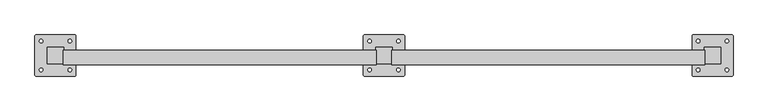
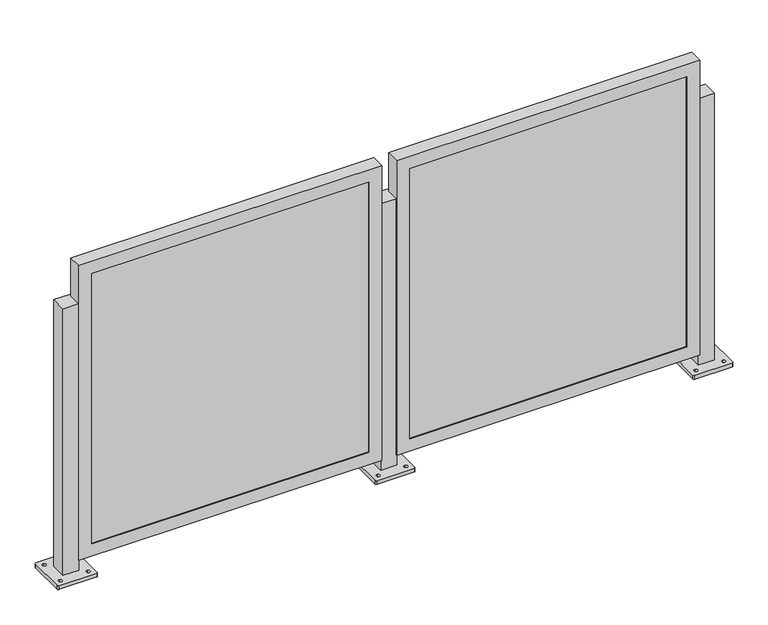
"""IFC4 building model written with IfcOpenShell, lengths in millimetres: railing geometry, Railing - Amico Architectural - Perforated Railing - Apex01."""

from ifc_helpers import new_model, si_unit, frame, origin, place, context, project, spatial, polyline, circle_curve, outline, extrude, faceted_brep, source, transform, mapped, element, save
from ifc_brep_helpers import plane_surface, cylinder_surface, revolved_surface, advanced_brep


def railing_13d9c8be(model_context):
    return source(origin(), model_context, "Body", "SolidModel", [
        advanced_brep(
        [(-26861.8818496, 7784.6872089, 914.4), (-26861.8818496, 7733.8872089, 914.4), (-26811.0818496, 7733.8872089, 914.4), (-26811.0818496, 7784.6872089, 914.4), (-26899.9818498, 7698.9622499, 0.0), (-26899.9818498, 7819.6121679, 0.0), (-26896.8068216, 7822.787196, 0.0), (-26776.1568776, 7822.787196, 0.0), (-26772.9818495, 7819.6121679, 0.0), (-26772.9818495, 7698.9622499, 0.0), (-26776.1568776, 7695.7872218, 0.0), (-26896.8068216, 7695.7872218, 0.0), (-26880.9318372, 7709.2809542, 0.0), (-26880.9318372, 7720.3934667, 0.0), (-26880.9318481, 7798.1809586, 0.0), (-26880.9318481, 7809.2934402, 0.0), (-26792.0318362, 7709.2809558, 0.0), (-26792.0318362, 7720.3934664, 0.0), (-26792.0318471, 7798.1809601, 0.0), (-26792.0318471, 7809.2934399, 0.0), (-26861.8818496, 7784.6872089, 12.7), (-26861.8818496, 7733.8872089, 12.7), (-26811.0818496, 7733.8872089, 12.7), (-26811.0818496, 7784.6872089, 12.7), (-26899.9818498, 7698.9622499, 12.7), (-26896.8068216, 7695.7872218, 12.7), (-26776.1568776, 7695.7872218, 12.7), (-26772.9818495, 7698.9622499, 12.7), (-26772.9818495, 7819.6121679, 12.7), (-26776.1568776, 7822.787196, 12.7), (-26896.8068216, 7822.787196, 12.7), (-26899.9818498, 7819.6121679, 12.7), (-26880.9318372, 7709.2809542, 12.7), (-26880.9318372, 7720.3934667, 12.7), (-26880.9318481, 7798.1809586, 12.7), (-26880.9318481, 7809.2934402, 12.7), (-26792.0318362, 7709.2809558, 12.7), (-26792.0318362, 7720.3934664, 12.7), (-26792.0318471, 7798.1809601, 12.7), (-26792.0318471, 7809.2934399, 12.7)],
        [
            (0, 1),
            (1, 2),
            (2, 3),
            (3, 0),
            (4, 5),
            (5, 6, circle_curve(frame((-26896.8068216, 7819.6121679, 0.0), z_axis=(0.0, 0.0, -1.0), x_axis=(0.0, 1.0, 0.0)), 3.1750282)),
            (6, 7),
            (7, 8, circle_curve(frame((-26776.1568776, 7819.6121679, 0.0), z_axis=(0.0, 0.0, -1.0), x_axis=(0.0, 1.0, 0.0)), 3.1750282)),
            (8, 9),
            (9, 10, circle_curve(frame((-26776.1568776, 7698.9622499, 0.0), z_axis=(0.0, 0.0, -1.0), x_axis=(0.0, 1.0, 0.0)), 3.1750282)),
            (10, 11),
            (11, 4, circle_curve(frame((-26896.8068216, 7698.9622499, 0.0), z_axis=(0.0, 0.0, -1.0), x_axis=(0.0, 1.0, 0.0)), 3.1750282)),
            (12, 13, circle_curve(frame((-26880.9318372, 7714.8372105, 0.0), z_axis=(0.0, 0.0, 1.0), x_axis=(0.0, 1.0, 0.0)), 5.5562562)),
            (13, 12, circle_curve(frame((-26880.9318372, 7714.8372105, 0.0), z_axis=(0.0, 0.0, 1.0), x_axis=(0.0, 1.0, 0.0)), 5.5562562)),
            (14, 15, circle_curve(frame((-26880.9318481, 7803.7371994, 0.0), z_axis=(0.0, 0.0, 1.0), x_axis=(0.0, 1.0, 0.0)), 5.5562408)),
            (15, 14, circle_curve(frame((-26880.9318481, 7803.7371994, 0.0), z_axis=(0.0, 0.0, 1.0), x_axis=(0.0, 1.0, 0.0)), 5.5562408)),
            (16, 17, circle_curve(frame((-26792.0318362, 7714.8372111, 0.0), z_axis=(0.0, 0.0, 1.0), x_axis=(0.0, 1.0, 0.0)), 5.5562553)),
            (17, 16, circle_curve(frame((-26792.0318362, 7714.8372111, 0.0), z_axis=(0.0, 0.0, 1.0), x_axis=(0.0, 1.0, 0.0)), 5.5562553)),
            (18, 19, circle_curve(frame((-26792.0318471, 7803.7372, 0.0), z_axis=(0.0, 0.0, 1.0), x_axis=(0.0, 1.0, 0.0)), 5.5562399)),
            (19, 18, circle_curve(frame((-26792.0318471, 7803.7372, 0.0), z_axis=(0.0, 0.0, 1.0), x_axis=(0.0, 1.0, 0.0)), 5.5562399)),
            (0, 20),
            (20, 21),
            (21, 1),
            (21, 22),
            (22, 2),
            (22, 23),
            (23, 3),
            (23, 20),
            (24, 25, circle_curve(frame((-26896.8068216, 7698.9622499, 12.7), z_axis=(0.0, 0.0, 1.0), x_axis=(0.0, 1.0, 0.0)), 3.1750282)),
            (25, 26),
            (26, 27, circle_curve(frame((-26776.1568776, 7698.9622499, 12.7), z_axis=(0.0, 0.0, 1.0), x_axis=(0.0, 1.0, 0.0)), 3.1750282)),
            (27, 28),
            (28, 29, circle_curve(frame((-26776.1568776, 7819.6121679, 12.7), z_axis=(0.0, 0.0, 1.0), x_axis=(0.0, 1.0, 0.0)), 3.1750282)),
            (29, 30),
            (30, 31, circle_curve(frame((-26896.8068216, 7819.6121679, 12.7), z_axis=(0.0, 0.0, 1.0), x_axis=(0.0, 1.0, 0.0)), 3.1750282)),
            (31, 24),
            (32, 33, circle_curve(frame((-26880.9318372, 7714.8372105, 12.7), z_axis=(0.0, 0.0, -1.0), x_axis=(0.0, 1.0, 0.0)), 5.5562562)),
            (33, 32, circle_curve(frame((-26880.9318372, 7714.8372105, 12.7), z_axis=(0.0, 0.0, -1.0), x_axis=(0.0, 1.0, 0.0)), 5.5562562)),
            (34, 35, circle_curve(frame((-26880.9318481, 7803.7371994, 12.7), z_axis=(0.0, 0.0, -1.0), x_axis=(0.0, 1.0, 0.0)), 5.5562408)),
            (35, 34, circle_curve(frame((-26880.9318481, 7803.7371994, 12.7), z_axis=(0.0, 0.0, -1.0), x_axis=(0.0, 1.0, 0.0)), 5.5562408)),
            (36, 37, circle_curve(frame((-26792.0318362, 7714.8372111, 12.7), z_axis=(0.0, 0.0, -1.0), x_axis=(0.0, 1.0, 0.0)), 5.5562553)),
            (37, 36, circle_curve(frame((-26792.0318362, 7714.8372111, 12.7), z_axis=(0.0, 0.0, -1.0), x_axis=(0.0, 1.0, 0.0)), 5.5562553)),
            (38, 39, circle_curve(frame((-26792.0318471, 7803.7372, 12.7), z_axis=(0.0, 0.0, -1.0), x_axis=(0.0, 1.0, 0.0)), 5.5562399)),
            (39, 38, circle_curve(frame((-26792.0318471, 7803.7372, 12.7), z_axis=(0.0, 0.0, -1.0), x_axis=(0.0, 1.0, 0.0)), 5.5562399)),
            (24, 4),
            (11, 25),
            (10, 26),
            (9, 27),
            (8, 28),
            (7, 29),
            (6, 30),
            (5, 31),
            (32, 12),
            (13, 33),
            (34, 14),
            (15, 35),
            (36, 16),
            (17, 37),
            (38, 18),
            (19, 39),
        ],
        [
            plane_surface(frame((-26861.8818496, 7733.8872089, 914.4), z_axis=(0.0, 0.0, 1.0), x_axis=(0.0, -1.0, 0.0))),
            plane_surface(frame((-26861.8818496, 7733.8872089, 0.0), z_axis=(0.0, 0.0, -1.0), x_axis=(0.0, 1.0, 0.0))),
            plane_surface(frame((-26861.8818496, 7784.6872089, 914.4), z_axis=(-1.0, 0.0, 0.0), x_axis=(0.0, 0.0, -1.0))),
            plane_surface(frame((-26861.8818496, 7733.8872089, 914.4), z_axis=(0.0, -1.0, 0.0), x_axis=(0.0, 0.0, -1.0))),
            plane_surface(frame((-26811.0818496, 7733.8872089, 914.4), z_axis=(1.0, 0.0, 0.0), x_axis=(0.0, 0.0, -1.0))),
            plane_surface(frame((-26811.0818496, 7784.6872089, 914.4), z_axis=(0.0, 1.0, 0.0), x_axis=(0.0, 0.0, -1.0))),
            plane_surface(frame((-26896.8068216, 7702.1372781, 12.7), z_axis=(0.0, 0.0, 1.0), x_axis=(-1.0, 0.0, 0.0))),
            cylinder_surface(frame((-26896.8068216, 7698.9622499, 0.0), z_axis=(0.0, 0.0, 1.0), x_axis=(0.0, 1.0, 0.0)), 3.1750282),
            plane_surface(frame((-26896.8068216, 7695.7872218, 12.7), z_axis=(1.1945386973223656e-12, -1.0, 0.0), x_axis=(0.0, 0.0, -1.0))),
            cylinder_surface(frame((-26776.1568776, 7698.9622499, 0.0), z_axis=(0.0, 0.0, 1.0), x_axis=(0.0, 1.0, 0.0)), 3.1750282),
            plane_surface(frame((-26772.9818495, 7698.9622499, 12.7), z_axis=(1.0, 0.0, 0.0), x_axis=(0.0, 0.0, -1.0))),
            cylinder_surface(frame((-26776.1568776, 7819.6121679, 0.0), z_axis=(0.0, 0.0, 1.0), x_axis=(0.0, 1.0, 0.0)), 3.1750282),
            plane_surface(frame((-26776.1568776, 7822.787196, 12.7), z_axis=(-1.1946088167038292e-12, 1.0, 0.0), x_axis=(0.0, 0.0, -1.0))),
            cylinder_surface(frame((-26896.8068216, 7819.6121679, 0.0), z_axis=(0.0, 0.0, 1.0), x_axis=(0.0, 1.0, 0.0)), 3.1750282),
            plane_surface(frame((-26899.9818498, 7819.6121679, 12.7), z_axis=(-1.0, 0.0, 0.0), x_axis=(0.0, 0.0, -1.0))),
            revolved_surface(polyline([(-26880.9318372, 7720.393466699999, 0.0), (-26880.9318372, 7720.393466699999, 12.7)]), (-26880.9318372, 7714.8372105, 0.0), (0.0, 0.0, -1.0)),
            revolved_surface(polyline([(-26880.9318481, 7809.293440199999, 0.0), (-26880.9318481, 7809.293440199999, 12.7)]), (-26880.9318481, 7803.7371994, 0.0), (0.0, 0.0, -1.0)),
            revolved_surface(polyline([(-26792.0318362, 7720.3934664, 0.0), (-26792.0318362, 7720.3934664, 12.7)]), (-26792.0318362, 7714.8372111, 0.0), (0.0, 0.0, -1.0)),
            revolved_surface(polyline([(-26792.0318471, 7809.2934399, 0.0), (-26792.0318471, 7809.2934399, 12.7)]), (-26792.0318471, 7803.7372, 0.0), (0.0, 0.0, -1.0)),
        ],
        [
            (0, [[1, 2, 3, 4]]),
            (1, [[5, 6, 7, 8, 9, 10, 11, 12], [13, 14], [15, 16], [17, 18], [19, 20]]),
            (2, [[-1, 21, 22, 23]]),
            (3, [[-2, -23, 24, 25]]),
            (4, [[-3, -25, 26, 27]]),
            (5, [[-4, -27, 28, -21]]),
            (6, [[29, 30, 31, 32, 33, 34, 35, 36], [-22, -28, -26, -24], [37, 38], [39, 40], [41, 42], [43, 44]]),
            (7, [[-29, 45, -12, 46]]),
            (8, [[-30, -46, -11, 47]]),
            (9, [[-31, -47, -10, 48]]),
            (10, [[-32, -48, -9, 49]]),
            (11, [[-33, -49, -8, 50]]),
            (12, [[-34, -50, -7, 51]]),
            (13, [[-35, -51, -6, 52]]),
            (14, [[-36, -52, -5, -45]]),
            (15, [[-37, 53, -14, 54]]),
            (15, [[-38, -54, -13, -53]]),
            (16, [[-39, 55, -16, 56]]),
            (16, [[-40, -56, -15, -55]]),
            (17, [[-41, 57, -18, 58]]),
            (17, [[-42, -58, -17, -57]]),
            (18, [[-43, 59, -20, 60]]),
            (18, [[-44, -60, -19, -59]]),
        ],
    ),
        faceted_brep([(-27828.286303, 7731.1440089, 47.625), (-26859.911303, 7731.1440089, 47.625), (-26859.911303, 7731.1440089, 1044.575), (-27828.286303, 7731.1440089, 1044.575), (-27787.011303, 7731.1440089, 1003.3), (-26901.186303, 7731.1440089, 1003.3), (-26901.186303, 7731.1440089, 88.9), (-27787.011303, 7731.1440089, 88.9), (-27787.011303, 7733.8872089, 1003.3), (-27787.011303, 7733.8872089, 88.9), (-27828.286303, 7775.0173054, 1044.575), (-27828.286303, 7775.0173054, 47.625), (-27825.111303, 7775.0173054, 1041.4), (-27825.111303, 7733.8872089, 1041.4), (-27825.111303, 7733.8872089, 50.8), (-27825.111303, 7775.0173054, 50.8), (-26901.186303, 7733.8872089, 88.9), (-26859.911303, 7775.0173054, 47.625), (-26863.086303, 7733.8872089, 50.8), (-26863.086303, 7775.0173054, 50.8), (-26901.186303, 7733.8872089, 1003.3), (-26859.911303, 7775.0173054, 1044.575), (-26863.086303, 7733.8872089, 1041.4), (-26863.086303, 7775.0173054, 1041.4)], [[[0, 1, 2, 3], [4, 5, 6, 7]], [[8, 4, 7, 9]], [[3, 10, 11, 0]], [[12, 13, 14, 15]], [[9, 7, 6, 16]], [[0, 11, 17, 1]], [[15, 14, 18, 19]], [[16, 6, 5, 20]], [[1, 17, 21, 2]], [[19, 18, 22, 23]], [[20, 5, 4, 8]], [[10, 21, 17, 11], [15, 19, 23, 12]], [[2, 21, 10, 3]], [[13, 22, 18, 14], [9, 16, 20, 8]], [[23, 22, 13, 12]]]),
        extrude(outline(polyline([(-27825.111303, 7743.4122089), (-26863.086303, 7743.4122089), (-26863.086303, 7733.8872089), (-27825.111303, 7733.8872089), (-27825.111303, 7743.4122089)])), frame((0.0, 0.0, 50.8), z_axis=(0.0, 0.0, 1.0), x_axis=(1.0, 0.0, 0.0)), (0.0, 0.0, 1.0), 990.6),
        advanced_brep(
        [(-27877.8818496, 7784.6872089, 914.4), (-27877.8818496, 7733.8872089, 914.4), (-27827.0818496, 7733.8872089, 914.4), (-27827.0818496, 7784.6872089, 914.4), (-27915.9818498, 7698.9622499, 0.0), (-27915.9818498, 7819.6121679, 0.0), (-27912.8068216, 7822.787196, 0.0), (-27792.1568776, 7822.787196, 0.0), (-27788.9818495, 7819.6121679, 0.0), (-27788.9818495, 7698.9622499, 0.0), (-27792.1568776, 7695.7872218, 0.0), (-27912.8068216, 7695.7872218, 0.0), (-27896.9318372, 7709.2809542, 0.0), (-27896.9318372, 7720.3934667, 0.0), (-27896.9318481, 7798.1809586, 0.0), (-27896.9318481, 7809.2934402, 0.0), (-27808.0318362, 7709.2809558, 0.0), (-27808.0318362, 7720.3934664, 0.0), (-27808.0318471, 7798.1809601, 0.0), (-27808.0318471, 7809.2934399, 0.0), (-27877.8818496, 7784.6872089, 12.7), (-27877.8818496, 7733.8872089, 12.7), (-27827.0818496, 7733.8872089, 12.7), (-27827.0818496, 7784.6872089, 12.7), (-27915.9818498, 7698.9622499, 12.7), (-27912.8068216, 7695.7872218, 12.7), (-27792.1568776, 7695.7872218, 12.7), (-27788.9818495, 7698.9622499, 12.7), (-27788.9818495, 7819.6121679, 12.7), (-27792.1568776, 7822.787196, 12.7), (-27912.8068216, 7822.787196, 12.7), (-27915.9818498, 7819.6121679, 12.7), (-27896.9318372, 7709.2809542, 12.7), (-27896.9318372, 7720.3934667, 12.7), (-27896.9318481, 7798.1809586, 12.7), (-27896.9318481, 7809.2934402, 12.7), (-27808.0318362, 7709.2809558, 12.7), (-27808.0318362, 7720.3934664, 12.7), (-27808.0318471, 7798.1809601, 12.7), (-27808.0318471, 7809.2934399, 12.7)],
        [
            (0, 1),
            (1, 2),
            (2, 3),
            (3, 0),
            (4, 5),
            (5, 6, circle_curve(frame((-27912.8068216, 7819.6121679, 0.0), z_axis=(0.0, 0.0, -1.0), x_axis=(0.0, 1.0, 0.0)), 3.1750282)),
            (6, 7),
            (7, 8, circle_curve(frame((-27792.1568776, 7819.6121679, 0.0), z_axis=(0.0, 0.0, -1.0), x_axis=(0.0, 1.0, 0.0)), 3.1750282)),
            (8, 9),
            (9, 10, circle_curve(frame((-27792.1568776, 7698.9622499, 0.0), z_axis=(0.0, 0.0, -1.0), x_axis=(0.0, 1.0, 0.0)), 3.1750282)),
            (10, 11),
            (11, 4, circle_curve(frame((-27912.8068216, 7698.9622499, 0.0), z_axis=(0.0, 0.0, -1.0), x_axis=(0.0, 1.0, 0.0)), 3.1750282)),
            (12, 13, circle_curve(frame((-27896.9318372, 7714.8372105, 0.0), z_axis=(0.0, 0.0, 1.0), x_axis=(0.0, 1.0, 0.0)), 5.5562562)),
            (13, 12, circle_curve(frame((-27896.9318372, 7714.8372105, 0.0), z_axis=(0.0, 0.0, 1.0), x_axis=(0.0, 1.0, 0.0)), 5.5562562)),
            (14, 15, circle_curve(frame((-27896.9318481, 7803.7371994, 0.0), z_axis=(0.0, 0.0, 1.0), x_axis=(0.0, 1.0, 0.0)), 5.5562408)),
            (15, 14, circle_curve(frame((-27896.9318481, 7803.7371994, 0.0), z_axis=(0.0, 0.0, 1.0), x_axis=(0.0, 1.0, 0.0)), 5.5562408)),
            (16, 17, circle_curve(frame((-27808.0318362, 7714.8372111, 0.0), z_axis=(0.0, 0.0, 1.0), x_axis=(0.0, 1.0, 0.0)), 5.5562553)),
            (17, 16, circle_curve(frame((-27808.0318362, 7714.8372111, 0.0), z_axis=(0.0, 0.0, 1.0), x_axis=(0.0, 1.0, 0.0)), 5.5562553)),
            (18, 19, circle_curve(frame((-27808.0318471, 7803.7372, 0.0), z_axis=(0.0, 0.0, 1.0), x_axis=(0.0, 1.0, 0.0)), 5.5562399)),
            (19, 18, circle_curve(frame((-27808.0318471, 7803.7372, 0.0), z_axis=(0.0, 0.0, 1.0), x_axis=(0.0, 1.0, 0.0)), 5.5562399)),
            (0, 20),
            (20, 21),
            (21, 1),
            (21, 22),
            (22, 2),
            (22, 23),
            (23, 3),
            (23, 20),
            (24, 25, circle_curve(frame((-27912.8068216, 7698.9622499, 12.7), z_axis=(0.0, 0.0, 1.0), x_axis=(0.0, 1.0, 0.0)), 3.1750282)),
            (25, 26),
            (26, 27, circle_curve(frame((-27792.1568776, 7698.9622499, 12.7), z_axis=(0.0, 0.0, 1.0), x_axis=(0.0, 1.0, 0.0)), 3.1750282)),
            (27, 28),
            (28, 29, circle_curve(frame((-27792.1568776, 7819.6121679, 12.7), z_axis=(0.0, 0.0, 1.0), x_axis=(0.0, 1.0, 0.0)), 3.1750282)),
            (29, 30),
            (30, 31, circle_curve(frame((-27912.8068216, 7819.6121679, 12.7), z_axis=(0.0, 0.0, 1.0), x_axis=(0.0, 1.0, 0.0)), 3.1750282)),
            (31, 24),
            (32, 33, circle_curve(frame((-27896.9318372, 7714.8372105, 12.7), z_axis=(0.0, 0.0, -1.0), x_axis=(0.0, 1.0, 0.0)), 5.5562562)),
            (33, 32, circle_curve(frame((-27896.9318372, 7714.8372105, 12.7), z_axis=(0.0, 0.0, -1.0), x_axis=(0.0, 1.0, 0.0)), 5.5562562)),
            (34, 35, circle_curve(frame((-27896.9318481, 7803.7371994, 12.7), z_axis=(0.0, 0.0, -1.0), x_axis=(0.0, 1.0, 0.0)), 5.5562408)),
            (35, 34, circle_curve(frame((-27896.9318481, 7803.7371994, 12.7), z_axis=(0.0, 0.0, -1.0), x_axis=(0.0, 1.0, 0.0)), 5.5562408)),
            (36, 37, circle_curve(frame((-27808.0318362, 7714.8372111, 12.7), z_axis=(0.0, 0.0, -1.0), x_axis=(0.0, 1.0, 0.0)), 5.5562553)),
            (37, 36, circle_curve(frame((-27808.0318362, 7714.8372111, 12.7), z_axis=(0.0, 0.0, -1.0), x_axis=(0.0, 1.0, 0.0)), 5.5562553)),
            (38, 39, circle_curve(frame((-27808.0318471, 7803.7372, 12.7), z_axis=(0.0, 0.0, -1.0), x_axis=(0.0, 1.0, 0.0)), 5.5562399)),
            (39, 38, circle_curve(frame((-27808.0318471, 7803.7372, 12.7), z_axis=(0.0, 0.0, -1.0), x_axis=(0.0, 1.0, 0.0)), 5.5562399)),
            (24, 4),
            (11, 25),
            (10, 26),
            (9, 27),
            (8, 28),
            (7, 29),
            (6, 30),
            (5, 31),
            (32, 12),
            (13, 33),
            (34, 14),
            (15, 35),
            (36, 16),
            (17, 37),
            (38, 18),
            (19, 39),
        ],
        [
            plane_surface(frame((-27877.8818496, 7733.8872089, 914.4), z_axis=(0.0, 0.0, 1.0), x_axis=(0.0, -1.0, 0.0))),
            plane_surface(frame((-27877.8818496, 7733.8872089, 0.0), z_axis=(0.0, 0.0, -1.0), x_axis=(0.0, 1.0, 0.0))),
            plane_surface(frame((-27877.8818496, 7784.6872089, 914.4), z_axis=(-1.0, 0.0, 0.0), x_axis=(0.0, 0.0, -1.0))),
            plane_surface(frame((-27877.8818496, 7733.8872089, 914.4), z_axis=(0.0, -1.0, 0.0), x_axis=(0.0, 0.0, -1.0))),
            plane_surface(frame((-27827.0818496, 7733.8872089, 914.4), z_axis=(1.0, 0.0, 0.0), x_axis=(0.0, 0.0, -1.0))),
            plane_surface(frame((-27827.0818496, 7784.6872089, 914.4), z_axis=(0.0, 1.0, 0.0), x_axis=(0.0, 0.0, -1.0))),
            plane_surface(frame((-27912.8068216, 7702.1372781, 12.7), z_axis=(0.0, 0.0, 1.0), x_axis=(-1.0, 0.0, 0.0))),
            cylinder_surface(frame((-27912.8068216, 7698.9622499, 0.0), z_axis=(0.0, 0.0, 1.0), x_axis=(0.0, 1.0, 0.0)), 3.1750282),
            plane_surface(frame((-27912.8068216, 7695.7872218, 12.7), z_axis=(1.1945386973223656e-12, -1.0, 0.0), x_axis=(0.0, 0.0, -1.0))),
            cylinder_surface(frame((-27792.1568776, 7698.9622499, 0.0), z_axis=(0.0, 0.0, 1.0), x_axis=(0.0, 1.0, 0.0)), 3.1750282),
            plane_surface(frame((-27788.9818495, 7698.9622499, 12.7), z_axis=(1.0, 0.0, 0.0), x_axis=(0.0, 0.0, -1.0))),
            cylinder_surface(frame((-27792.1568776, 7819.6121679, 0.0), z_axis=(0.0, 0.0, 1.0), x_axis=(0.0, 1.0, 0.0)), 3.1750282),
            plane_surface(frame((-27792.1568776, 7822.787196, 12.7), z_axis=(-1.1946088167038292e-12, 1.0, 0.0), x_axis=(0.0, 0.0, -1.0))),
            cylinder_surface(frame((-27912.8068216, 7819.6121679, 0.0), z_axis=(0.0, 0.0, 1.0), x_axis=(0.0, 1.0, 0.0)), 3.1750282),
            plane_surface(frame((-27915.9818498, 7819.6121679, 12.7), z_axis=(-1.0, 0.0, 0.0), x_axis=(0.0, 0.0, -1.0))),
            revolved_surface(polyline([(-27896.9318372, 7720.393466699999, 0.0), (-27896.9318372, 7720.393466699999, 12.7)]), (-27896.9318372, 7714.8372105, 0.0), (0.0, 0.0, -1.0)),
            revolved_surface(polyline([(-27896.9318481, 7809.293440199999, 0.0), (-27896.9318481, 7809.293440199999, 12.7)]), (-27896.9318481, 7803.7371994, 0.0), (0.0, 0.0, -1.0)),
            revolved_surface(polyline([(-27808.0318362, 7720.3934664, 0.0), (-27808.0318362, 7720.3934664, 12.7)]), (-27808.0318362, 7714.8372111, 0.0), (0.0, 0.0, -1.0)),
            revolved_surface(polyline([(-27808.0318471, 7809.2934399, 0.0), (-27808.0318471, 7809.2934399, 12.7)]), (-27808.0318471, 7803.7372, 0.0), (0.0, 0.0, -1.0)),
        ],
        [
            (0, [[1, 2, 3, 4]]),
            (1, [[5, 6, 7, 8, 9, 10, 11, 12], [13, 14], [15, 16], [17, 18], [19, 20]]),
            (2, [[-1, 21, 22, 23]]),
            (3, [[-2, -23, 24, 25]]),
            (4, [[-3, -25, 26, 27]]),
            (5, [[-4, -27, 28, -21]]),
            (6, [[29, 30, 31, 32, 33, 34, 35, 36], [-22, -28, -26, -24], [37, 38], [39, 40], [41, 42], [43, 44]]),
            (7, [[-29, 45, -12, 46]]),
            (8, [[-30, -46, -11, 47]]),
            (9, [[-31, -47, -10, 48]]),
            (10, [[-32, -48, -9, 49]]),
            (11, [[-33, -49, -8, 50]]),
            (12, [[-34, -50, -7, 51]]),
            (13, [[-35, -51, -6, 52]]),
            (14, [[-36, -52, -5, -45]]),
            (15, [[-37, 53, -14, 54]]),
            (15, [[-38, -54, -13, -53]]),
            (16, [[-39, 55, -16, 56]]),
            (16, [[-40, -56, -15, -55]]),
            (17, [[-41, 57, -18, 58]]),
            (17, [[-42, -58, -17, -57]]),
            (18, [[-43, 59, -20, 60]]),
            (18, [[-44, -60, -19, -59]]),
        ],
    ),
        faceted_brep([(-28844.286303, 7731.1440089, 47.625), (-27875.911303, 7731.1440089, 47.625), (-27875.911303, 7731.1440089, 1044.575), (-28844.286303, 7731.1440089, 1044.575), (-28803.011303, 7731.1440089, 1003.3), (-27917.186303, 7731.1440089, 1003.3), (-27917.186303, 7731.1440089, 88.9), (-28803.011303, 7731.1440089, 88.9), (-28803.011303, 7733.8872089, 1003.3), (-28803.011303, 7733.8872089, 88.9), (-28844.286303, 7775.0173054, 1044.575), (-28844.286303, 7775.0173054, 47.625), (-28841.111303, 7775.0173054, 1041.4), (-28841.111303, 7733.8872089, 1041.4), (-28841.111303, 7733.8872089, 50.8), (-28841.111303, 7775.0173054, 50.8), (-27917.186303, 7733.8872089, 88.9), (-27875.911303, 7775.0173054, 47.625), (-27879.086303, 7733.8872089, 50.8), (-27879.086303, 7775.0173054, 50.8), (-27917.186303, 7733.8872089, 1003.3), (-27875.911303, 7775.0173054, 1044.575), (-27879.086303, 7733.8872089, 1041.4), (-27879.086303, 7775.0173054, 1041.4)], [[[0, 1, 2, 3], [4, 5, 6, 7]], [[8, 4, 7, 9]], [[3, 10, 11, 0]], [[12, 13, 14, 15]], [[9, 7, 6, 16]], [[0, 11, 17, 1]], [[15, 14, 18, 19]], [[16, 6, 5, 20]], [[1, 17, 21, 2]], [[19, 18, 22, 23]], [[20, 5, 4, 8]], [[10, 21, 17, 11], [15, 19, 23, 12]], [[2, 21, 10, 3]], [[13, 22, 18, 14], [9, 16, 20, 8]], [[23, 22, 13, 12]]]),
        extrude(outline(polyline([(-28841.111303, 7743.4122089), (-27879.086303, 7743.4122089), (-27879.086303, 7733.8872089), (-28841.111303, 7733.8872089), (-28841.111303, 7743.4122089)])), frame((0.0, 0.0, 50.8), z_axis=(0.0, 0.0, 1.0), x_axis=(1.0, 0.0, 0.0)), (0.0, 0.0, 1.0), 990.6),
        advanced_brep(
        [(-28893.8818496, 7784.6872089, 914.4), (-28893.8818496, 7733.8872089, 914.4), (-28843.0818496, 7733.8872089, 914.4), (-28843.0818496, 7784.6872089, 914.4), (-28931.9818498, 7698.9622499, 0.0), (-28931.9818498, 7819.6121679, 0.0), (-28928.8068216, 7822.787196, 0.0), (-28808.1568776, 7822.787196, 0.0), (-28804.9818495, 7819.6121679, 0.0), (-28804.9818495, 7698.9622499, 0.0), (-28808.1568776, 7695.7872218, 0.0), (-28928.8068216, 7695.7872218, 0.0), (-28912.9318372, 7709.2809542, 0.0), (-28912.9318372, 7720.3934667, 0.0), (-28912.9318481, 7798.1809586, 0.0), (-28912.9318481, 7809.2934402, 0.0), (-28824.0318362, 7709.2809558, 0.0), (-28824.0318362, 7720.3934664, 0.0), (-28824.0318471, 7798.1809601, 0.0), (-28824.0318471, 7809.2934399, 0.0), (-28893.8818496, 7784.6872089, 12.7), (-28893.8818496, 7733.8872089, 12.7), (-28843.0818496, 7733.8872089, 12.7), (-28843.0818496, 7784.6872089, 12.7), (-28931.9818498, 7698.9622499, 12.7), (-28928.8068216, 7695.7872218, 12.7), (-28808.1568776, 7695.7872218, 12.7), (-28804.9818495, 7698.9622499, 12.7), (-28804.9818495, 7819.6121679, 12.7), (-28808.1568776, 7822.787196, 12.7), (-28928.8068216, 7822.787196, 12.7), (-28931.9818498, 7819.6121679, 12.7), (-28912.9318372, 7709.2809542, 12.7), (-28912.9318372, 7720.3934667, 12.7), (-28912.9318481, 7798.1809586, 12.7), (-28912.9318481, 7809.2934402, 12.7), (-28824.0318362, 7709.2809558, 12.7), (-28824.0318362, 7720.3934664, 12.7), (-28824.0318471, 7798.1809601, 12.7), (-28824.0318471, 7809.2934399, 12.7)],
        [
            (0, 1),
            (1, 2),
            (2, 3),
            (3, 0),
            (4, 5),
            (5, 6, circle_curve(frame((-28928.8068216, 7819.6121679, 0.0), z_axis=(0.0, 0.0, -1.0), x_axis=(0.0, 1.0, 0.0)), 3.1750282)),
            (6, 7),
            (7, 8, circle_curve(frame((-28808.1568776, 7819.6121679, 0.0), z_axis=(0.0, 0.0, -1.0), x_axis=(0.0, 1.0, 0.0)), 3.1750282)),
            (8, 9),
            (9, 10, circle_curve(frame((-28808.1568776, 7698.9622499, 0.0), z_axis=(0.0, 0.0, -1.0), x_axis=(0.0, 1.0, 0.0)), 3.1750282)),
            (10, 11),
            (11, 4, circle_curve(frame((-28928.8068216, 7698.9622499, 0.0), z_axis=(0.0, 0.0, -1.0), x_axis=(0.0, 1.0, 0.0)), 3.1750282)),
            (12, 13, circle_curve(frame((-28912.9318372, 7714.8372105, 0.0), z_axis=(0.0, 0.0, 1.0), x_axis=(0.0, 1.0, 0.0)), 5.5562562)),
            (13, 12, circle_curve(frame((-28912.9318372, 7714.8372105, 0.0), z_axis=(0.0, 0.0, 1.0), x_axis=(0.0, 1.0, 0.0)), 5.5562562)),
            (14, 15, circle_curve(frame((-28912.9318481, 7803.7371994, 0.0), z_axis=(0.0, 0.0, 1.0), x_axis=(0.0, 1.0, 0.0)), 5.5562408)),
            (15, 14, circle_curve(frame((-28912.9318481, 7803.7371994, 0.0), z_axis=(0.0, 0.0, 1.0), x_axis=(0.0, 1.0, 0.0)), 5.5562408)),
            (16, 17, circle_curve(frame((-28824.0318362, 7714.8372111, 0.0), z_axis=(0.0, 0.0, 1.0), x_axis=(0.0, 1.0, 0.0)), 5.5562553)),
            (17, 16, circle_curve(frame((-28824.0318362, 7714.8372111, 0.0), z_axis=(0.0, 0.0, 1.0), x_axis=(0.0, 1.0, 0.0)), 5.5562553)),
            (18, 19, circle_curve(frame((-28824.0318471, 7803.7372, 0.0), z_axis=(0.0, 0.0, 1.0), x_axis=(0.0, 1.0, 0.0)), 5.5562399)),
            (19, 18, circle_curve(frame((-28824.0318471, 7803.7372, 0.0), z_axis=(0.0, 0.0, 1.0), x_axis=(0.0, 1.0, 0.0)), 5.5562399)),
            (0, 20),
            (20, 21),
            (21, 1),
            (21, 22),
            (22, 2),
            (22, 23),
            (23, 3),
            (23, 20),
            (24, 25, circle_curve(frame((-28928.8068216, 7698.9622499, 12.7), z_axis=(0.0, 0.0, 1.0), x_axis=(0.0, 1.0, 0.0)), 3.1750282)),
            (25, 26),
            (26, 27, circle_curve(frame((-28808.1568776, 7698.9622499, 12.7), z_axis=(0.0, 0.0, 1.0), x_axis=(0.0, 1.0, 0.0)), 3.1750282)),
            (27, 28),
            (28, 29, circle_curve(frame((-28808.1568776, 7819.6121679, 12.7), z_axis=(0.0, 0.0, 1.0), x_axis=(0.0, 1.0, 0.0)), 3.1750282)),
            (29, 30),
            (30, 31, circle_curve(frame((-28928.8068216, 7819.6121679, 12.7), z_axis=(0.0, 0.0, 1.0), x_axis=(0.0, 1.0, 0.0)), 3.1750282)),
            (31, 24),
            (32, 33, circle_curve(frame((-28912.9318372, 7714.8372105, 12.7), z_axis=(0.0, 0.0, -1.0), x_axis=(0.0, 1.0, 0.0)), 5.5562562)),
            (33, 32, circle_curve(frame((-28912.9318372, 7714.8372105, 12.7), z_axis=(0.0, 0.0, -1.0), x_axis=(0.0, 1.0, 0.0)), 5.5562562)),
            (34, 35, circle_curve(frame((-28912.9318481, 7803.7371994, 12.7), z_axis=(0.0, 0.0, -1.0), x_axis=(0.0, 1.0, 0.0)), 5.5562408)),
            (35, 34, circle_curve(frame((-28912.9318481, 7803.7371994, 12.7), z_axis=(0.0, 0.0, -1.0), x_axis=(0.0, 1.0, 0.0)), 5.5562408)),
            (36, 37, circle_curve(frame((-28824.0318362, 7714.8372111, 12.7), z_axis=(0.0, 0.0, -1.0), x_axis=(0.0, 1.0, 0.0)), 5.5562553)),
            (37, 36, circle_curve(frame((-28824.0318362, 7714.8372111, 12.7), z_axis=(0.0, 0.0, -1.0), x_axis=(0.0, 1.0, 0.0)), 5.5562553)),
            (38, 39, circle_curve(frame((-28824.0318471, 7803.7372, 12.7), z_axis=(0.0, 0.0, -1.0), x_axis=(0.0, 1.0, 0.0)), 5.5562399)),
            (39, 38, circle_curve(frame((-28824.0318471, 7803.7372, 12.7), z_axis=(0.0, 0.0, -1.0), x_axis=(0.0, 1.0, 0.0)), 5.5562399)),
            (24, 4),
            (11, 25),
            (10, 26),
            (9, 27),
            (8, 28),
            (7, 29),
            (6, 30),
            (5, 31),
            (32, 12),
            (13, 33),
            (34, 14),
            (15, 35),
            (36, 16),
            (17, 37),
            (38, 18),
            (19, 39),
        ],
        [
            plane_surface(frame((-28893.8818496, 7733.8872089, 914.4), z_axis=(0.0, 0.0, 1.0), x_axis=(0.0, -1.0, 0.0))),
            plane_surface(frame((-28893.8818496, 7733.8872089, 0.0), z_axis=(0.0, 0.0, -1.0), x_axis=(0.0, 1.0, 0.0))),
            plane_surface(frame((-28893.8818496, 7784.6872089, 914.4), z_axis=(-1.0, 0.0, 0.0), x_axis=(0.0, 0.0, -1.0))),
            plane_surface(frame((-28893.8818496, 7733.8872089, 914.4), z_axis=(0.0, -1.0, 0.0), x_axis=(0.0, 0.0, -1.0))),
            plane_surface(frame((-28843.0818496, 7733.8872089, 914.4), z_axis=(1.0, 0.0, 0.0), x_axis=(0.0, 0.0, -1.0))),
            plane_surface(frame((-28843.0818496, 7784.6872089, 914.4), z_axis=(0.0, 1.0, 0.0), x_axis=(0.0, 0.0, -1.0))),
            plane_surface(frame((-28928.8068216, 7702.1372781, 12.7), z_axis=(0.0, 0.0, 1.0), x_axis=(-1.0, 0.0, 0.0))),
            cylinder_surface(frame((-28928.8068216, 7698.9622499, 0.0), z_axis=(0.0, 0.0, 1.0), x_axis=(0.0, 1.0, 0.0)), 3.1750282),
            plane_surface(frame((-28928.8068216, 7695.7872218, 12.7), z_axis=(1.1945386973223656e-12, -1.0, 0.0), x_axis=(0.0, 0.0, -1.0))),
            cylinder_surface(frame((-28808.1568776, 7698.9622499, 0.0), z_axis=(0.0, 0.0, 1.0), x_axis=(0.0, 1.0, 0.0)), 3.1750282),
            plane_surface(frame((-28804.9818495, 7698.9622499, 12.7), z_axis=(1.0, 0.0, 0.0), x_axis=(0.0, 0.0, -1.0))),
            cylinder_surface(frame((-28808.1568776, 7819.6121679, 0.0), z_axis=(0.0, 0.0, 1.0), x_axis=(0.0, 1.0, 0.0)), 3.1750282),
            plane_surface(frame((-28808.1568776, 7822.787196, 12.7), z_axis=(-1.1946088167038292e-12, 1.0, 0.0), x_axis=(0.0, 0.0, -1.0))),
            cylinder_surface(frame((-28928.8068216, 7819.6121679, 0.0), z_axis=(0.0, 0.0, 1.0), x_axis=(0.0, 1.0, 0.0)), 3.1750282),
            plane_surface(frame((-28931.9818498, 7819.6121679, 12.7), z_axis=(-1.0, 0.0, 0.0), x_axis=(0.0, 0.0, -1.0))),
            revolved_surface(polyline([(-28912.9318372, 7720.393466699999, 0.0), (-28912.9318372, 7720.393466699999, 12.7)]), (-28912.9318372, 7714.8372105, 0.0), (0.0, 0.0, -1.0)),
            revolved_surface(polyline([(-28912.9318481, 7809.293440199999, 0.0), (-28912.9318481, 7809.293440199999, 12.7)]), (-28912.9318481, 7803.7371994, 0.0), (0.0, 0.0, -1.0)),
            revolved_surface(polyline([(-28824.0318362, 7720.3934664, 0.0), (-28824.0318362, 7720.3934664, 12.7)]), (-28824.0318362, 7714.8372111, 0.0), (0.0, 0.0, -1.0)),
            revolved_surface(polyline([(-28824.0318471, 7809.2934399, 0.0), (-28824.0318471, 7809.2934399, 12.7)]), (-28824.0318471, 7803.7372, 0.0), (0.0, 0.0, -1.0)),
        ],
        [
            (0, [[1, 2, 3, 4]]),
            (1, [[5, 6, 7, 8, 9, 10, 11, 12], [13, 14], [15, 16], [17, 18], [19, 20]]),
            (2, [[-1, 21, 22, 23]]),
            (3, [[-2, -23, 24, 25]]),
            (4, [[-3, -25, 26, 27]]),
            (5, [[-4, -27, 28, -21]]),
            (6, [[29, 30, 31, 32, 33, 34, 35, 36], [-22, -28, -26, -24], [37, 38], [39, 40], [41, 42], [43, 44]]),
            (7, [[-29, 45, -12, 46]]),
            (8, [[-30, -46, -11, 47]]),
            (9, [[-31, -47, -10, 48]]),
            (10, [[-32, -48, -9, 49]]),
            (11, [[-33, -49, -8, 50]]),
            (12, [[-34, -50, -7, 51]]),
            (13, [[-35, -51, -6, 52]]),
            (14, [[-36, -52, -5, -45]]),
            (15, [[-37, 53, -14, 54]]),
            (15, [[-38, -54, -13, -53]]),
            (16, [[-39, 55, -16, 56]]),
            (16, [[-40, -56, -15, -55]]),
            (17, [[-41, 57, -18, 58]]),
            (17, [[-42, -58, -17, -57]]),
            (18, [[-43, 59, -20, 60]]),
            (18, [[-44, -60, -19, -59]]),
        ],
    ),
    ])


if __name__ == "__main__":
    model = new_model("IFC4")
    model_context = context("Model", 3, world=origin())
    ifc_project = project(units=[si_unit("LENGTHUNIT", "METRE", prefix="MILLI")], contexts=[model_context])
    site = spatial("IfcSite", under=ifc_project)
    building = spatial("IfcBuilding", under=site)
    placement = place(None, origin())
    railing_shape = railing_13d9c8be(model_context)
    element("IfcRailing", 1, ObjectType="Railing - Amico Architectural - Perforated Railing - Apex01", at=placement, inside=building, context=model_context, shape_type="MappedRepresentation", body=[
        mapped(railing_shape, transform((0.0, 0.0, 0.0), x_axis=(1.0, 0.0, 0.0), y_axis=(0.0, 1.0, 0.0), z_axis=(0.0, 0.0, 1.0))),
    ])
    save(model, "model.ifc")
